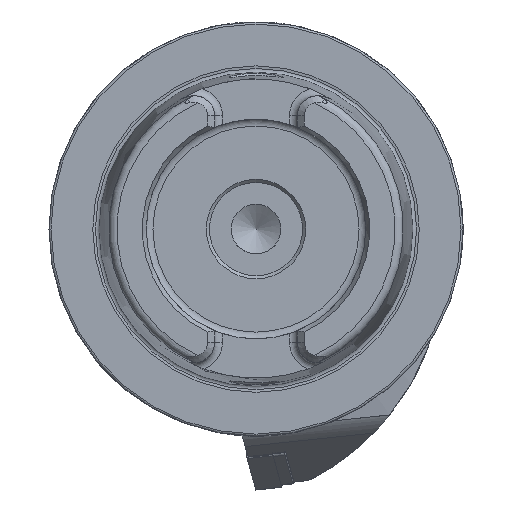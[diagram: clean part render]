
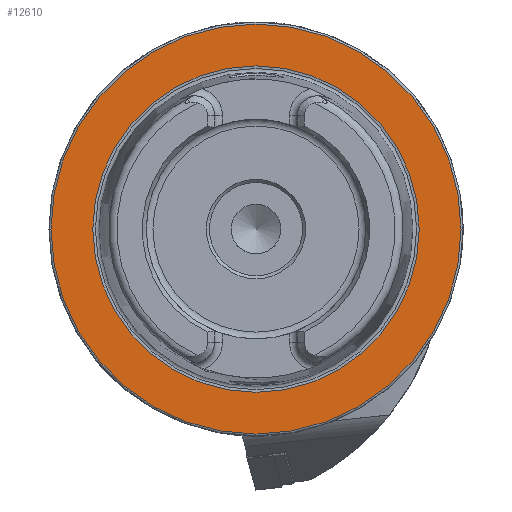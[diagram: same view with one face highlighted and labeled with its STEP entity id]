
A CAD part, left-side view. The second image highlights one B-rep face of the part: STEP entity #12610.
In plain terms, the highlighted planar face has unit normal (-1, 0, 0).
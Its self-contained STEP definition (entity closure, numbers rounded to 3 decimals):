
#290 = AXIS2_PLACEMENT_3D ( 'NONE', #3123, #11130, #7858 ) ;
#732 = FACE_BOUND ( 'NONE', #5132, .T. ) ;
#846 = CARTESIAN_POINT ( 'NONE',  ( 0., 0., 0. ) ) ;
#1290 = AXIS2_PLACEMENT_3D ( 'NONE', #4492, #5557, #3256 ) ;
#3123 = CARTESIAN_POINT ( 'NONE',  ( 0., 49.5, 0. ) ) ;
#3256 = DIRECTION ( 'NONE',  ( 0., 0., 1. ) ) ;
#4412 = PLANE ( 'NONE',  #290 ) ;
#4492 = CARTESIAN_POINT ( 'NONE',  ( 0., 0., 0. ) ) ;
#5132 = EDGE_LOOP ( 'NONE', ( #6891 ) ) ;
#5557 = DIRECTION ( 'NONE',  ( -1., 0., 0. ) ) ;
#6801 = EDGE_CURVE ( 'NONE', #12440, #12440, #7479, .T. ) ;
#6891 = ORIENTED_EDGE ( 'NONE', *, *, #6801, .F. ) ;
#6911 = EDGE_CURVE ( 'NONE', #13691, #13691, #10138, .T. ) ;
#7232 = AXIS2_PLACEMENT_3D ( 'NONE', #846, #8836, #13338 ) ;
#7479 = CIRCLE ( 'NONE', #7232, 39.405 ) ;
#7858 = DIRECTION ( 'NONE',  ( 0., 0., -1. ) ) ;
#8791 = CARTESIAN_POINT ( 'NONE',  ( 0., 0., 39.405 ) ) ;
#8836 = DIRECTION ( 'NONE',  ( -1., 0., 0. ) ) ;
#9800 = CARTESIAN_POINT ( 'NONE',  ( 0., 0., 49.5 ) ) ;
#10138 = CIRCLE ( 'NONE', #1290, 49.5 ) ;
#10623 = EDGE_LOOP ( 'NONE', ( #13649 ) ) ;
#11130 = DIRECTION ( 'NONE',  ( 1., 0., 0. ) ) ;
#12440 = VERTEX_POINT ( 'NONE', #8791 ) ;
#12554 = FACE_OUTER_BOUND ( 'NONE', #10623, .T. ) ;
#12610 = ADVANCED_FACE ( 'NONE', ( #732, #12554 ), #4412, .F. ) ;
#13338 = DIRECTION ( 'NONE',  ( 0., 0., 1. ) ) ;
#13649 = ORIENTED_EDGE ( 'NONE', *, *, #6911, .T. ) ;
#13691 = VERTEX_POINT ( 'NONE', #9800 ) ;
